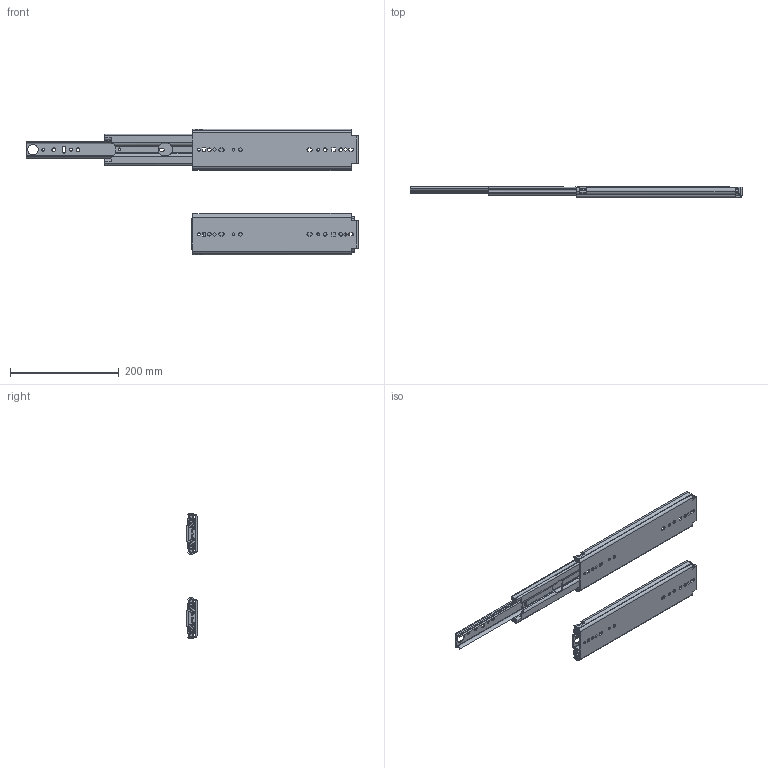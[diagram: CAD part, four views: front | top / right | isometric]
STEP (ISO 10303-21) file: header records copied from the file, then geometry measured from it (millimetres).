
FILE_DESCRIPTION (( 'STEP AP214' ), '1' );
FILE_NAME ('C 9301-12P.STEP', '2024-04-24T00:06:28', ( '' ), ( '' ), 'SwSTEP 2.0', 'SolidWorks 2021', '' );
FILE_SCHEMA (( 'AUTOMOTIVE_DESIGN' ));
Length unit declared in the file: millimetre
Products named in the file (7): bumper; C 9301-12P open; OM-9301-12; I.M-9301-12; C 9301-12P; INT.M-9301-12; 2327-2943-YE
Assembly tree (13 placements, depth 3):
  C 9301-12P
    OM-9301-12
    INT.M-9301-12
    I.M-9301-12
    2327-2943-YE
    bumper  x2
    C 9301-12P open
      OM-9301-12
      INT.M-9301-12
      I.M-9301-12
      2327-2943-YE
      bumper  x2
Bounding box: 609.6 x 19.1 x 231.32 mm (x, y, z)
Volume: 353020.2 mm3; surface area: 324046.6 mm2
Topology: 14 solids, 14 shells, 1350 faces, 3940 edges, 2590 vertices
Faces by surface type: plane 822, cylinder 460, bspline 36, torus 16, cone 16
Entity records: 22809 total; most frequent: CARTESIAN_POINT 5078, ORIENTED_EDGE 3808, DIRECTION 3520, EDGE_CURVE 1904, VECTOR 1282, LINE 1282, VERTEX_POINT 1255, AXIS2_PLACEMENT_3D 1119
